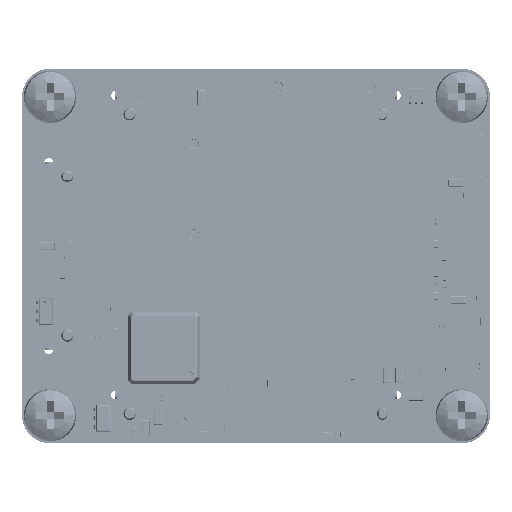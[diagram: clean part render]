
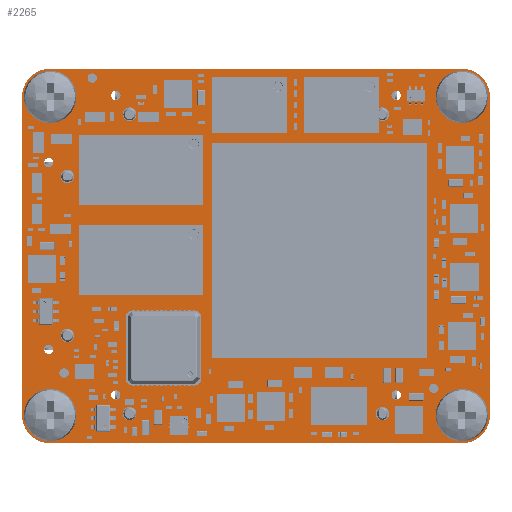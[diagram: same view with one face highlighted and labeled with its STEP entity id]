
A CAD part, top view. The second image highlights one B-rep face of the part: STEP entity #2265.
In plain terms, the highlighted planar face has unit normal (0, 0, 1).
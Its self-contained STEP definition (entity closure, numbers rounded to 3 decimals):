
#1424 = VERTEX_POINT('',#1425);
#1425 = CARTESIAN_POINT('',(0.,3.,1.737));
#1431 = EDGE_CURVE('',#1424,#1432,#1434,.T.);
#1432 = VERTEX_POINT('',#1433);
#1433 = CARTESIAN_POINT('',(3.,0.,1.737));
#1434 = CIRCLE('',#1435,3.001);
#1435 = AXIS2_PLACEMENT_3D('',#1436,#1437,#1438);
#1436 = CARTESIAN_POINT('',(3.001,3.001,1.737));
#1437 = DIRECTION('',(0.,0.,1.));
#1438 = DIRECTION('',(-1.,0.,0.));
#1464 = EDGE_CURVE('',#1432,#1465,#1467,.T.);
#1465 = VERTEX_POINT('',#1466);
#1466 = CARTESIAN_POINT('',(47.,0.,1.737));
#1467 = LINE('',#1468,#1469);
#1468 = CARTESIAN_POINT('',(3.,0.,1.737));
#1469 = VECTOR('',#1470,1.);
#1470 = DIRECTION('',(1.,0.,0.));
#1495 = EDGE_CURVE('',#1465,#1496,#1498,.T.);
#1496 = VERTEX_POINT('',#1497);
#1497 = CARTESIAN_POINT('',(50.,3.,1.737));
#1498 = CIRCLE('',#1499,3.001);
#1499 = AXIS2_PLACEMENT_3D('',#1500,#1501,#1502);
#1500 = CARTESIAN_POINT('',(46.999,3.001,1.737));
#1501 = DIRECTION('',(0.,0.,1.));
#1502 = DIRECTION('',(0.,-1.,0.));
#1528 = EDGE_CURVE('',#1496,#1529,#1531,.T.);
#1529 = VERTEX_POINT('',#1530);
#1530 = CARTESIAN_POINT('',(50.,37.,1.737));
#1531 = LINE('',#1532,#1533);
#1532 = CARTESIAN_POINT('',(50.,3.,1.737));
#1533 = VECTOR('',#1534,1.);
#1534 = DIRECTION('',(0.,1.,0.));
#1559 = EDGE_CURVE('',#1529,#1560,#1562,.T.);
#1560 = VERTEX_POINT('',#1561);
#1561 = CARTESIAN_POINT('',(47.,40.,1.737));
#1562 = CIRCLE('',#1563,3.001);
#1563 = AXIS2_PLACEMENT_3D('',#1564,#1565,#1566);
#1564 = CARTESIAN_POINT('',(46.999,36.999,1.737));
#1565 = DIRECTION('',(0.,0.,1.));
#1566 = DIRECTION('',(1.,0.,-0.));
#1592 = EDGE_CURVE('',#1560,#1593,#1595,.T.);
#1593 = VERTEX_POINT('',#1594);
#1594 = CARTESIAN_POINT('',(3.,40.,1.737));
#1595 = LINE('',#1596,#1597);
#1596 = CARTESIAN_POINT('',(47.,40.,1.737));
#1597 = VECTOR('',#1598,1.);
#1598 = DIRECTION('',(-1.,0.,0.));
#1623 = EDGE_CURVE('',#1593,#1624,#1626,.T.);
#1624 = VERTEX_POINT('',#1625);
#1625 = CARTESIAN_POINT('',(0.,37.,1.737));
#1626 = CIRCLE('',#1627,3.001);
#1627 = AXIS2_PLACEMENT_3D('',#1628,#1629,#1630);
#1628 = CARTESIAN_POINT('',(3.001,36.999,1.737));
#1629 = DIRECTION('',(0.,0.,1.));
#1630 = DIRECTION('',(0.,1.,0.));
#1656 = EDGE_CURVE('',#1624,#1424,#1657,.T.);
#1657 = LINE('',#1658,#1659);
#1658 = CARTESIAN_POINT('',(0.,37.,1.737));
#1659 = VECTOR('',#1660,1.);
#1660 = DIRECTION('',(0.,-1.,0.));
#1680 = VERTEX_POINT('',#1681);
#1681 = CARTESIAN_POINT('',(4.6,3.,1.737));
#1687 = EDGE_CURVE('',#1680,#1680,#1688,.T.);
#1688 = CIRCLE('',#1689,1.6);
#1689 = AXIS2_PLACEMENT_3D('',#1690,#1691,#1692);
#1690 = CARTESIAN_POINT('',(3.,3.,1.737));
#1691 = DIRECTION('',(0.,0.,1.));
#1692 = DIRECTION('',(1.,0.,-0.));
#1713 = VERTEX_POINT('',#1714);
#1714 = CARTESIAN_POINT('',(3.35,10.025,1.737));
#1720 = EDGE_CURVE('',#1713,#1713,#1721,.T.);
#1721 = CIRCLE('',#1722,0.5);
#1722 = AXIS2_PLACEMENT_3D('',#1723,#1724,#1725);
#1723 = CARTESIAN_POINT('',(2.85,10.025,1.737));
#1724 = DIRECTION('',(0.,0.,1.));
#1725 = DIRECTION('',(1.,0.,-0.));
#1746 = VERTEX_POINT('',#1747);
#1747 = CARTESIAN_POINT('',(10.525,5.15,1.737));
#1753 = EDGE_CURVE('',#1746,#1746,#1754,.T.);
#1754 = CIRCLE('',#1755,0.5);
#1755 = AXIS2_PLACEMENT_3D('',#1756,#1757,#1758);
#1756 = CARTESIAN_POINT('',(10.025,5.15,1.737));
#1757 = DIRECTION('',(0.,0.,1.));
#1758 = DIRECTION('',(1.,0.,-0.));
#1779 = VERTEX_POINT('',#1780);
#1780 = CARTESIAN_POINT('',(5.575,11.5,1.737));
#1786 = EDGE_CURVE('',#1779,#1779,#1787,.T.);
#1787 = CIRCLE('',#1788,0.725);
#1788 = AXIS2_PLACEMENT_3D('',#1789,#1790,#1791);
#1789 = CARTESIAN_POINT('',(4.85,11.5,1.737));
#1790 = DIRECTION('',(0.,0.,1.));
#1791 = DIRECTION('',(1.,0.,-0.));
#1812 = VERTEX_POINT('',#1813);
#1813 = CARTESIAN_POINT('',(3.35,29.975,1.737));
#1819 = EDGE_CURVE('',#1812,#1812,#1820,.T.);
#1820 = CIRCLE('',#1821,0.5);
#1821 = AXIS2_PLACEMENT_3D('',#1822,#1823,#1824);
#1822 = CARTESIAN_POINT('',(2.85,29.975,1.737));
#1823 = DIRECTION('',(0.,0.,1.));
#1824 = DIRECTION('',(1.,0.,-0.));
#1845 = VERTEX_POINT('',#1846);
#1846 = CARTESIAN_POINT('',(4.6,37.,1.737));
#1852 = EDGE_CURVE('',#1845,#1845,#1853,.T.);
#1853 = CIRCLE('',#1854,1.6);
#1854 = AXIS2_PLACEMENT_3D('',#1855,#1856,#1857);
#1855 = CARTESIAN_POINT('',(3.,37.,1.737));
#1856 = DIRECTION('',(0.,0.,1.));
#1857 = DIRECTION('',(1.,0.,-0.));
#1878 = VERTEX_POINT('',#1879);
#1879 = CARTESIAN_POINT('',(5.575,28.5,1.737));
#1885 = EDGE_CURVE('',#1878,#1878,#1886,.T.);
#1886 = CIRCLE('',#1887,0.725);
#1887 = AXIS2_PLACEMENT_3D('',#1888,#1889,#1890);
#1888 = CARTESIAN_POINT('',(4.85,28.5,1.737));
#1889 = DIRECTION('',(0.,0.,1.));
#1890 = DIRECTION('',(1.,0.,-0.));
#1911 = VERTEX_POINT('',#1912);
#1912 = CARTESIAN_POINT('',(10.525,37.15,1.737));
#1918 = EDGE_CURVE('',#1911,#1911,#1919,.T.);
#1919 = CIRCLE('',#1920,0.5);
#1920 = AXIS2_PLACEMENT_3D('',#1921,#1922,#1923);
#1921 = CARTESIAN_POINT('',(10.025,37.15,1.737));
#1922 = DIRECTION('',(0.,0.,1.));
#1923 = DIRECTION('',(1.,0.,-0.));
#1944 = VERTEX_POINT('',#1945);
#1945 = CARTESIAN_POINT('',(39.225,3.15,1.737));
#1951 = EDGE_CURVE('',#1944,#1944,#1952,.T.);
#1952 = CIRCLE('',#1953,0.725);
#1953 = AXIS2_PLACEMENT_3D('',#1954,#1955,#1956);
#1954 = CARTESIAN_POINT('',(38.5,3.15,1.737));
#1955 = DIRECTION('',(0.,0.,1.));
#1956 = DIRECTION('',(1.,0.,-0.));
#1977 = VERTEX_POINT('',#1978);
#1978 = CARTESIAN_POINT('',(12.225,3.15,1.737));
#1984 = EDGE_CURVE('',#1977,#1977,#1985,.T.);
#1985 = CIRCLE('',#1986,0.725);
#1986 = AXIS2_PLACEMENT_3D('',#1987,#1988,#1989);
#1987 = CARTESIAN_POINT('',(11.5,3.15,1.737));
#1988 = DIRECTION('',(0.,0.,1.));
#1989 = DIRECTION('',(1.,0.,-0.));
#2010 = VERTEX_POINT('',#2011);
#2011 = CARTESIAN_POINT('',(48.6,3.,1.737));
#2017 = EDGE_CURVE('',#2010,#2010,#2018,.T.);
#2018 = CIRCLE('',#2019,1.6);
#2019 = AXIS2_PLACEMENT_3D('',#2020,#2021,#2022);
#2020 = CARTESIAN_POINT('',(47.,3.,1.737));
#2021 = DIRECTION('',(0.,0.,1.));
#2022 = DIRECTION('',(1.,0.,-0.));
#2043 = VERTEX_POINT('',#2044);
#2044 = CARTESIAN_POINT('',(40.475,5.15,1.737));
#2050 = EDGE_CURVE('',#2043,#2043,#2051,.T.);
#2051 = CIRCLE('',#2052,0.5);
#2052 = AXIS2_PLACEMENT_3D('',#2053,#2054,#2055);
#2053 = CARTESIAN_POINT('',(39.975,5.15,1.737));
#2054 = DIRECTION('',(0.,0.,1.));
#2055 = DIRECTION('',(1.,0.,-0.));
#2076 = VERTEX_POINT('',#2077);
#2077 = CARTESIAN_POINT('',(39.225,35.15,1.737));
#2083 = EDGE_CURVE('',#2076,#2076,#2084,.T.);
#2084 = CIRCLE('',#2085,0.725);
#2085 = AXIS2_PLACEMENT_3D('',#2086,#2087,#2088);
#2086 = CARTESIAN_POINT('',(38.5,35.15,1.737));
#2087 = DIRECTION('',(0.,0.,1.));
#2088 = DIRECTION('',(1.,0.,-0.));
#2109 = VERTEX_POINT('',#2110);
#2110 = CARTESIAN_POINT('',(12.225,35.15,1.737));
#2116 = EDGE_CURVE('',#2109,#2109,#2117,.T.);
#2117 = CIRCLE('',#2118,0.725);
#2118 = AXIS2_PLACEMENT_3D('',#2119,#2120,#2121);
#2119 = CARTESIAN_POINT('',(11.5,35.15,1.737));
#2120 = DIRECTION('',(0.,0.,1.));
#2121 = DIRECTION('',(1.,0.,-0.));
#2142 = VERTEX_POINT('',#2143);
#2143 = CARTESIAN_POINT('',(40.475,37.15,1.737));
#2149 = EDGE_CURVE('',#2142,#2142,#2150,.T.);
#2150 = CIRCLE('',#2151,0.5);
#2151 = AXIS2_PLACEMENT_3D('',#2152,#2153,#2154);
#2152 = CARTESIAN_POINT('',(39.975,37.15,1.737));
#2153 = DIRECTION('',(0.,0.,1.));
#2154 = DIRECTION('',(1.,0.,-0.));
#2175 = VERTEX_POINT('',#2176);
#2176 = CARTESIAN_POINT('',(48.6,37.,1.737));
#2182 = EDGE_CURVE('',#2175,#2175,#2183,.T.);
#2183 = CIRCLE('',#2184,1.6);
#2184 = AXIS2_PLACEMENT_3D('',#2185,#2186,#2187);
#2185 = CARTESIAN_POINT('',(47.,37.,1.737));
#2186 = DIRECTION('',(0.,0.,1.));
#2187 = DIRECTION('',(1.,0.,-0.));
#2265 = ADVANCED_FACE('',(#2266,#2276,#2279,#2282,#2285,#2288,#2291,
    #2294,#2297,#2300,#2303,#2306,#2309,#2312,#2315,#2318,#2321),#2324,
  .T.);
#2266 = FACE_BOUND('',#2267,.T.);
#2267 = EDGE_LOOP('',(#2268,#2269,#2270,#2271,#2272,#2273,#2274,#2275));
#2268 = ORIENTED_EDGE('',*,*,#1431,.T.);
#2269 = ORIENTED_EDGE('',*,*,#1464,.T.);
#2270 = ORIENTED_EDGE('',*,*,#1495,.T.);
#2271 = ORIENTED_EDGE('',*,*,#1528,.T.);
#2272 = ORIENTED_EDGE('',*,*,#1559,.T.);
#2273 = ORIENTED_EDGE('',*,*,#1592,.T.);
#2274 = ORIENTED_EDGE('',*,*,#1623,.T.);
#2275 = ORIENTED_EDGE('',*,*,#1656,.T.);
#2276 = FACE_BOUND('',#2277,.T.);
#2277 = EDGE_LOOP('',(#2278));
#2278 = ORIENTED_EDGE('',*,*,#1687,.F.);
#2279 = FACE_BOUND('',#2280,.T.);
#2280 = EDGE_LOOP('',(#2281));
#2281 = ORIENTED_EDGE('',*,*,#1720,.F.);
#2282 = FACE_BOUND('',#2283,.T.);
#2283 = EDGE_LOOP('',(#2284));
#2284 = ORIENTED_EDGE('',*,*,#1753,.F.);
#2285 = FACE_BOUND('',#2286,.T.);
#2286 = EDGE_LOOP('',(#2287));
#2287 = ORIENTED_EDGE('',*,*,#1786,.F.);
#2288 = FACE_BOUND('',#2289,.T.);
#2289 = EDGE_LOOP('',(#2290));
#2290 = ORIENTED_EDGE('',*,*,#1819,.F.);
#2291 = FACE_BOUND('',#2292,.T.);
#2292 = EDGE_LOOP('',(#2293));
#2293 = ORIENTED_EDGE('',*,*,#1852,.F.);
#2294 = FACE_BOUND('',#2295,.T.);
#2295 = EDGE_LOOP('',(#2296));
#2296 = ORIENTED_EDGE('',*,*,#1885,.F.);
#2297 = FACE_BOUND('',#2298,.T.);
#2298 = EDGE_LOOP('',(#2299));
#2299 = ORIENTED_EDGE('',*,*,#1918,.F.);
#2300 = FACE_BOUND('',#2301,.T.);
#2301 = EDGE_LOOP('',(#2302));
#2302 = ORIENTED_EDGE('',*,*,#1951,.F.);
#2303 = FACE_BOUND('',#2304,.T.);
#2304 = EDGE_LOOP('',(#2305));
#2305 = ORIENTED_EDGE('',*,*,#1984,.F.);
#2306 = FACE_BOUND('',#2307,.T.);
#2307 = EDGE_LOOP('',(#2308));
#2308 = ORIENTED_EDGE('',*,*,#2017,.F.);
#2309 = FACE_BOUND('',#2310,.T.);
#2310 = EDGE_LOOP('',(#2311));
#2311 = ORIENTED_EDGE('',*,*,#2050,.F.);
#2312 = FACE_BOUND('',#2313,.T.);
#2313 = EDGE_LOOP('',(#2314));
#2314 = ORIENTED_EDGE('',*,*,#2083,.F.);
#2315 = FACE_BOUND('',#2316,.T.);
#2316 = EDGE_LOOP('',(#2317));
#2317 = ORIENTED_EDGE('',*,*,#2116,.F.);
#2318 = FACE_BOUND('',#2319,.T.);
#2319 = EDGE_LOOP('',(#2320));
#2320 = ORIENTED_EDGE('',*,*,#2149,.F.);
#2321 = FACE_BOUND('',#2322,.T.);
#2322 = EDGE_LOOP('',(#2323));
#2323 = ORIENTED_EDGE('',*,*,#2182,.F.);
#2324 = PLANE('',#2325);
#2325 = AXIS2_PLACEMENT_3D('',#2326,#2327,#2328);
#2326 = CARTESIAN_POINT('',(25.,20.,1.737));
#2327 = DIRECTION('',(0.,0.,1.));
#2328 = DIRECTION('',(1.,0.,-0.));
